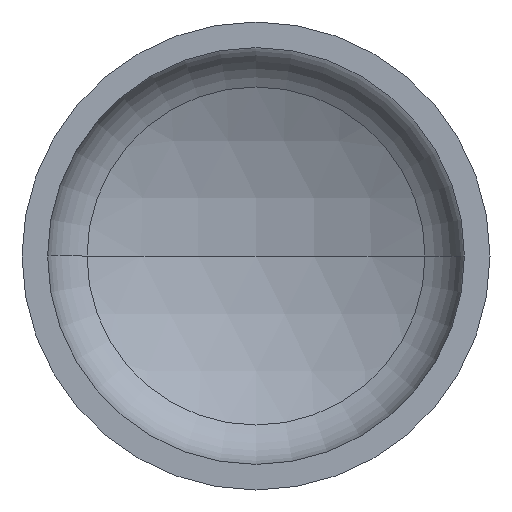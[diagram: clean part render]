
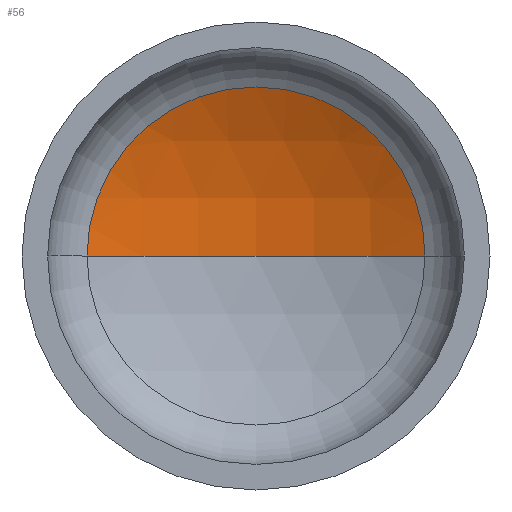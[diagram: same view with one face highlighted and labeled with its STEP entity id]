
A CAD part, front view. The second image highlights one B-rep face of the part: STEP entity #56.
In plain terms, the highlighted spherical face has radius 1200 mm.
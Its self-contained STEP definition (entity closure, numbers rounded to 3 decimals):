
#4 = CIRCLE ( 'NONE', #15, 1200. ) ;
#14 = DIRECTION ( 'NONE',  ( 0., 0., 1. ) ) ;
#15 = AXIS2_PLACEMENT_3D ( 'NONE', #215, #217, #358 ) ;
#21 = AXIS2_PLACEMENT_3D ( 'NONE', #156, #390, #241 ) ;
#27 = EDGE_LOOP ( 'NONE', ( #85, #107, #72 ) ) ;
#47 = VERTEX_POINT ( 'NONE', #282 ) ;
#56 = ADVANCED_FACE ( 'NONE', ( #403 ), #136, .F. ) ;
#58 = AXIS2_PLACEMENT_3D ( 'NONE', #407, #281, #247 ) ;
#72 = ORIENTED_EDGE ( 'NONE', *, *, #321, .T. ) ;
#85 = ORIENTED_EDGE ( 'NONE', *, *, #369, .F. ) ;
#98 = VERTEX_POINT ( 'NONE', #306 ) ;
#107 = ORIENTED_EDGE ( 'NONE', *, *, #323, .T. ) ;
#136 = SPHERICAL_SURFACE ( 'NONE', #58, 1200. ) ;
#155 = VERTEX_POINT ( 'NONE', #204 ) ;
#156 = CARTESIAN_POINT ( 'NONE',  ( 0., 305.217, 0. ) ) ;
#204 = CARTESIAN_POINT ( 'NONE',  ( 541.856, 305.217, 0. ) ) ;
#215 = CARTESIAN_POINT ( 'NONE',  ( 0., -765.48, 0. ) ) ;
#217 = DIRECTION ( 'NONE',  ( 0., 0., -1. ) ) ;
#226 = CIRCLE ( 'NONE', #21, 541.856 ) ;
#241 = DIRECTION ( 'NONE',  ( 1., 0., 0. ) ) ;
#247 = DIRECTION ( 'NONE',  ( -1., 0., 0. ) ) ;
#268 = CIRCLE ( 'NONE', #338, 1200. ) ;
#269 = DIRECTION ( 'NONE',  ( 1., 0., 0. ) ) ;
#281 = DIRECTION ( 'NONE',  ( 0., 0., -1. ) ) ;
#282 = CARTESIAN_POINT ( 'NONE',  ( -541.856, 305.217, 0. ) ) ;
#306 = CARTESIAN_POINT ( 'NONE',  ( 0., 434.52, 0. ) ) ;
#321 = EDGE_CURVE ( 'NONE', #155, #47, #226, .T. ) ;
#323 = EDGE_CURVE ( 'NONE', #98, #155, #4, .T. ) ;
#324 = CARTESIAN_POINT ( 'NONE',  ( 0., -765.48, 0. ) ) ;
#338 = AXIS2_PLACEMENT_3D ( 'NONE', #324, #14, #269 ) ;
#358 = DIRECTION ( 'NONE',  ( -1., 0., 0. ) ) ;
#369 = EDGE_CURVE ( 'NONE', #98, #47, #268, .T. ) ;
#390 = DIRECTION ( 'NONE',  ( 0., -1., 0. ) ) ;
#403 = FACE_OUTER_BOUND ( 'NONE', #27, .T. ) ;
#407 = CARTESIAN_POINT ( 'NONE',  ( 0., -765.48, 0. ) ) ;
